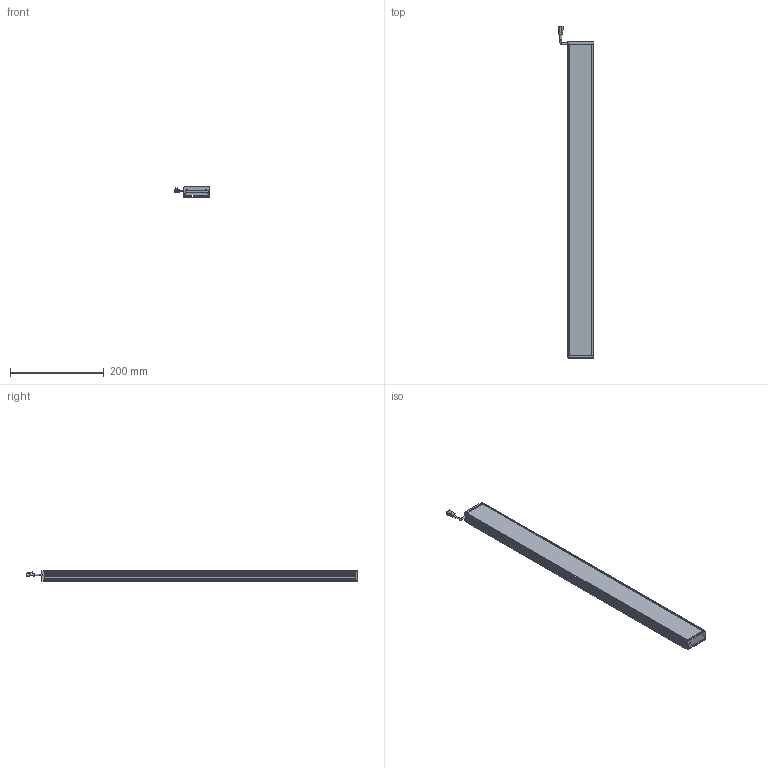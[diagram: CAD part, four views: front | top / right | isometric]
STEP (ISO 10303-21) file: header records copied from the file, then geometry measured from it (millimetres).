
FILE_DESCRIPTION(/* description */ (''),/* implementation_level */ '2;1');
FILE_NAME(/* name */ '',/* time_stamp */ '2024-02-21T15:36:23+08:00',/* author */ (''),/* organization */ (''),/* preprocessor_version */ 'ST-DEVELOPER v20',/* originating_system */ 'Autodesk Translation Framework v12.20.1.177',/* authorisation */ '');
FILE_SCHEMA (('AUTOMOTIVE_DESIGN { 1 0 10303 214 3 1 1 }'));
Length unit declared in the file: millimetre
Products named in the file (6): L55; 3拼母头 v2; 主体; 漫射板; 挡头 (1); 挡头
Assembly tree (5 placements, depth 2):
  L55
    3拼母头 v2
    主体
    漫射板
    挡头 (1)
    挡头
Bounding box: 75 x 709 x 22 mm (x, y, z)
Volume: 355475 mm3; surface area: 292790.6 mm2
Topology: 6 solids, 6 shells, 455 faces, 1297 edges, 862 vertices
Faces by surface type: plane 326, cylinder 124, cone 4, torus 1
Full cylindrical faces by diameter (mm): 2.529 x4, 3.8 x3
Entity records: 14941 total; most frequent: CARTESIAN_POINT 2630, ORIENTED_EDGE 2586, DIRECTION 2487, EDGE_CURVE 1293, LINE 1029, VECTOR 1029, VERTEX_POINT 862, AXIS2_PLACEMENT_3D 729
